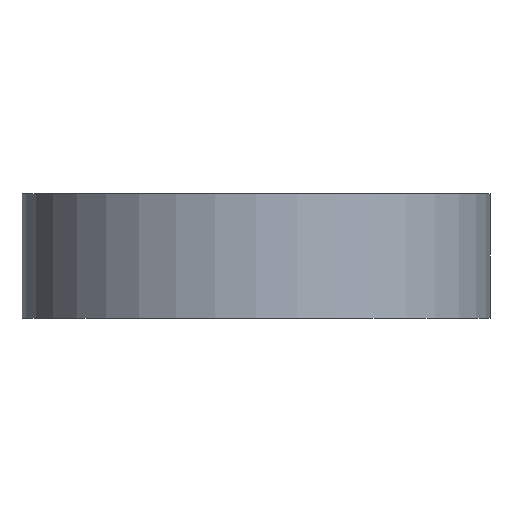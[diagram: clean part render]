
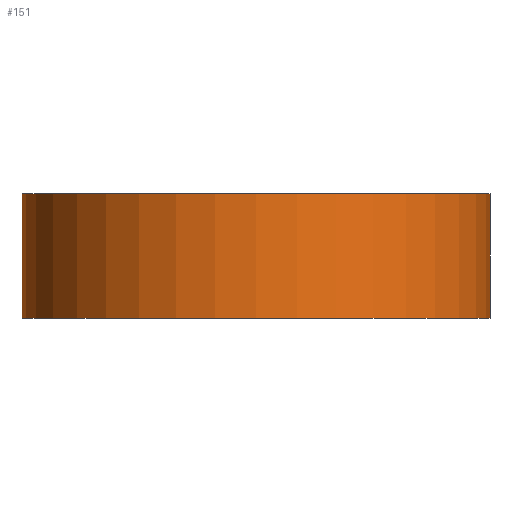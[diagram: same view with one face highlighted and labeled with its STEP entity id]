
A CAD part, front view. The second image highlights one B-rep face of the part: STEP entity #151.
In plain terms, the highlighted cylindrical face has radius 4.5 mm (diameter 9 mm), a partial arc.
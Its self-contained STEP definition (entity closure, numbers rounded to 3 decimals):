
#5 = AXIS2_PLACEMENT_3D ( 'NONE', #230, #23, #233 ) ;
#6 = LINE ( 'NONE', #237, #86 ) ;
#13 = ORIENTED_EDGE ( 'NONE', *, *, #275, .T. ) ;
#18 = CARTESIAN_POINT ( 'NONE',  ( 0., 0., 2.4 ) ) ;
#22 = CYLINDRICAL_SURFACE ( 'NONE', #5, 4.5 ) ;
#23 = DIRECTION ( 'NONE',  ( 0., 0., -1. ) ) ;
#26 = DIRECTION ( 'NONE',  ( 0., 0., -1. ) ) ;
#49 = CARTESIAN_POINT ( 'NONE',  ( -4.5, 0., 0. ) ) ;
#53 = DIRECTION ( 'NONE',  ( 0., 0., 1. ) ) ;
#60 = CARTESIAN_POINT ( 'NONE',  ( -4.5, 0., 2.4 ) ) ;
#61 = VERTEX_POINT ( 'NONE', #299 ) ;
#67 = ORIENTED_EDGE ( 'NONE', *, *, #213, .F. ) ;
#77 = VECTOR ( 'NONE', #84, 1000. ) ;
#80 = EDGE_CURVE ( 'NONE', #154, #61, #215, .T. ) ;
#84 = DIRECTION ( 'NONE',  ( 0., 0., -1. ) ) ;
#86 = VECTOR ( 'NONE', #26, 1000. ) ;
#101 = CARTESIAN_POINT ( 'NONE',  ( -4.5, 0., 2.4 ) ) ;
#128 = LINE ( 'NONE', #60, #77 ) ;
#134 = VERTEX_POINT ( 'NONE', #49 ) ;
#142 = FACE_OUTER_BOUND ( 'NONE', #247, .T. ) ;
#151 = ADVANCED_FACE ( 'NONE', ( #142 ), #22, .T. ) ;
#154 = VERTEX_POINT ( 'NONE', #101 ) ;
#178 = VERTEX_POINT ( 'NONE', #189 ) ;
#179 = ORIENTED_EDGE ( 'NONE', *, *, #80, .F. ) ;
#185 = DIRECTION ( 'NONE',  ( 1., 0., 0. ) ) ;
#187 = AXIS2_PLACEMENT_3D ( 'NONE', #188, #53, #289 ) ;
#188 = CARTESIAN_POINT ( 'NONE',  ( 0., 0., 0. ) ) ;
#189 = CARTESIAN_POINT ( 'NONE',  ( 4.5, 0., 0. ) ) ;
#211 = CIRCLE ( 'NONE', #187, 4.5 ) ;
#213 = EDGE_CURVE ( 'NONE', #61, #178, #6, .T. ) ;
#215 = CIRCLE ( 'NONE', #252, 4.5 ) ;
#219 = ORIENTED_EDGE ( 'NONE', *, *, #284, .T. ) ;
#230 = CARTESIAN_POINT ( 'NONE',  ( 0., 0., 2.4 ) ) ;
#233 = DIRECTION ( 'NONE',  ( -1., 0., 0. ) ) ;
#237 = CARTESIAN_POINT ( 'NONE',  ( 4.5, 0., 2.4 ) ) ;
#247 = EDGE_LOOP ( 'NONE', ( #67, #179, #219, #13 ) ) ;
#252 = AXIS2_PLACEMENT_3D ( 'NONE', #18, #277, #185 ) ;
#275 = EDGE_CURVE ( 'NONE', #134, #178, #211, .T. ) ;
#277 = DIRECTION ( 'NONE',  ( 0., 0., 1. ) ) ;
#284 = EDGE_CURVE ( 'NONE', #154, #134, #128, .T. ) ;
#289 = DIRECTION ( 'NONE',  ( 1., 0., 0. ) ) ;
#299 = CARTESIAN_POINT ( 'NONE',  ( 4.5, 0., 2.4 ) ) ;
